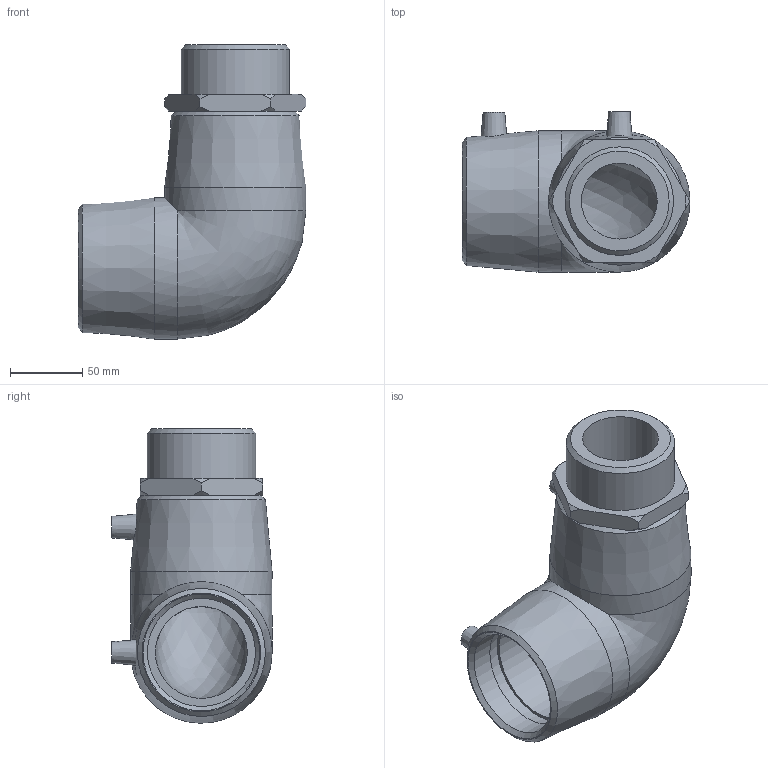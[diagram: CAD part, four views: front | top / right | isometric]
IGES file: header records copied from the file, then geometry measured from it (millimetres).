
Global section: file name: 492504075025.ipt; native system: Autodesk Inventor 2015; preprocessor: unknown; author: KIM; date: 20200202.122357; units: millimetre
Bounding box: 158 x 111 x 204 mm (x, y, z)
Volume: 867689.8 mm3; surface area: 138904 mm2
Topology: 1 solids, 2 shells, 59 faces, 143 edges, 96 vertices
Faces by surface type: plane 22, cone 19, revolution 10, cylinder 7, bspline 1
Full cylindrical faces by diameter (mm): 4 x2, 75 x2, 75.184 x1, 98 x2
